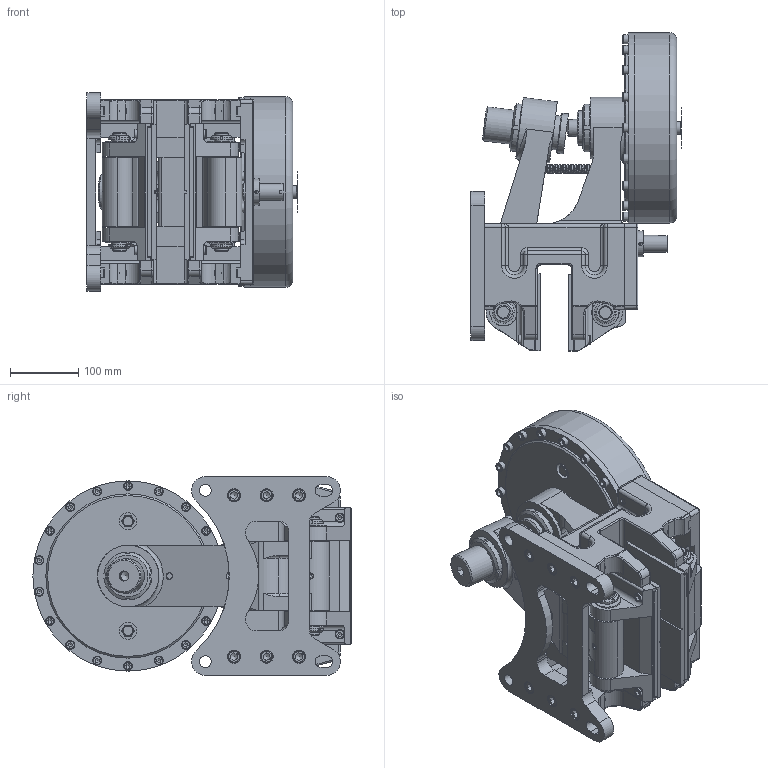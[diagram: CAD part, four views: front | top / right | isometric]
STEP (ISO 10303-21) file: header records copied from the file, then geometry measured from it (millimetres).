
FILE_DESCRIPTION(/* description */ ('','CAx-IF Rec.Pracs.---Representation and Presentation of Product Manufacturing Information (PMI)---4.0---2014-10-13'),/* implementation_level */ '2;1');
FILE_NAME(/* name */ 'X:\INVENTOR\DISEGNI\19_Pinze\STEP x Sito\PNEUM-POSITIVE\19_16_680_06 PPTP680_40.stp',/* time_stamp */ '2018-10-30T08:10:56+01:00',/* author */ ('stefano'),/* organization */ (''),/* preprocessor_version */ 'ST-DEVELOPER v17',/* originating_system */ 'Autodesk Inventor 2018',/* authorisation */ '');
FILE_SCHEMA (('AP242_MANAGED_MODEL_BASED_3D_ENGINEERING_MIM_LF { 1 0 10303 442 1 1 4 }'));
Products named in the file (1): 19_16_680_06 PPTP680_40_Substitute_2
Bounding box: 307.1 x 465 x 290 mm (x, y, z)
Volume: 12387412.5 mm3; surface area: 1084332.8 mm2
Topology: 1 solids, 1 shells, 1659 faces, 4582 edges, 2999 vertices
Faces by surface type: plane 839, cylinder 453, torus 184, cone 137, bspline 30, sphere 16
Full cylindrical faces by diameter (mm): 1.8 x2, 2.5 x1, 3 x1, 5.188 x1, 5.25 x4, 6.647 x2, 7.4 x1, 7.5 x2, 8 x7, 8.376 x1, 8.5 x8, 8.917 x2, 9 x1, 9.188 x1, 10 x2, 10.106 x13, 10.5 x4, 12 x13, 12.5 x12, 13 x25, 13.5 x8, 14 x1, 16.5 x4, 17 x2, 18 x14, 18.631 x1, 19 x12, 19.5 x1, 20 x12, 22 x6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
Entity records: 64207 total; most frequent: CARTESIAN_POINT 20292, ORIENTED_EDGE 9042, DIRECTION 8926, EDGE_CURVE 4521, AXIS2_PLACEMENT_3D 3370, VERTEX_POINT 2999, LINE 2186, VECTOR 2186
